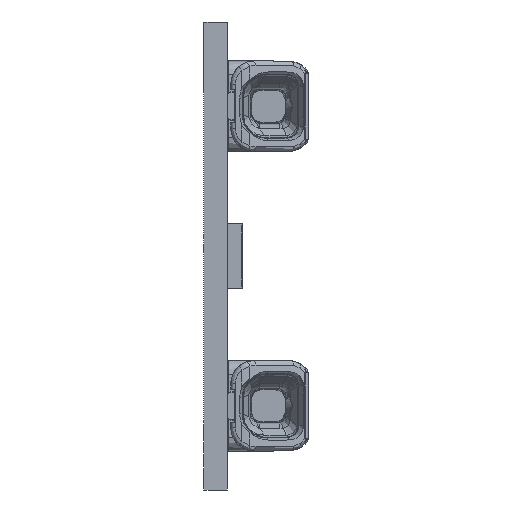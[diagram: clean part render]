
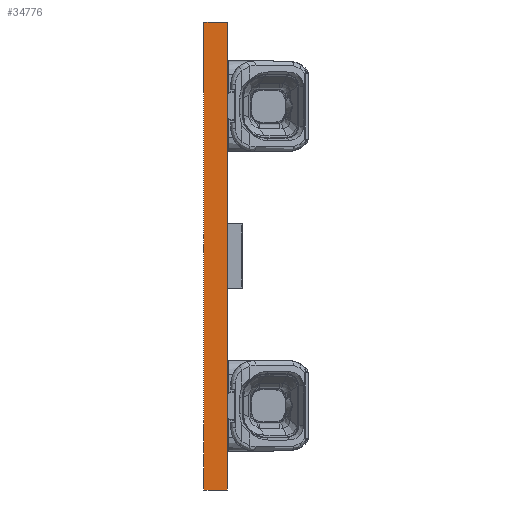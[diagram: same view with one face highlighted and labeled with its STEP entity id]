
A CAD part, left-side view. The second image highlights one B-rep face of the part: STEP entity #34776.
In plain terms, the highlighted planar face has unit normal (-1, 0, 0).
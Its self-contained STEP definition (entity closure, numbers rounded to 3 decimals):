
#1358=LINE('',#46029,#3734);
#2795=LINE('',#57285,#5171);
#2878=LINE('',#57450,#5254);
#2879=LINE('',#57452,#5255);
#3734=VECTOR('',#37681,1000.);
#5171=VECTOR('',#41378,1000.);
#5254=VECTOR('',#41625,1000.);
#5255=VECTOR('',#41628,1000.);
#6340=PLANE('',#36487);
#12830=ORIENTED_EDGE('',*,*,#14500,.F.);
#12831=ORIENTED_EDGE('',*,*,#16973,.F.);
#12832=ORIENTED_EDGE('',*,*,#16889,.T.);
#12833=ORIENTED_EDGE('',*,*,#16972,.T.);
#14500=EDGE_CURVE('',#17905,#17906,#1358,.T.);
#16889=EDGE_CURVE('',#19363,#19445,#2795,.T.);
#16972=EDGE_CURVE('',#19445,#17906,#2878,.T.);
#16973=EDGE_CURVE('',#19363,#17905,#2879,.T.);
#17905=VERTEX_POINT('',#46028);
#17906=VERTEX_POINT('',#46030);
#19363=VERTEX_POINT('',#57120);
#19445=VERTEX_POINT('',#57284);
#21790=EDGE_LOOP('',(#12830,#12831,#12832,#12833));
#23296=FACE_BOUND('',#21790,.T.);
#34776=ADVANCED_FACE('',(#23296),#6340,.T.);
#36487=AXIS2_PLACEMENT_3D('',#57451,#41626,#41627);
#37681=DIRECTION('',(0.,0.,-1.));
#41378=DIRECTION('',(0.,0.,-1.));
#41625=DIRECTION('',(0.,-1.,0.));
#41626=DIRECTION('',(-1.,0.,0.));
#41627=DIRECTION('',(0.,0.,1.));
#41628=DIRECTION('',(0.,-1.,0.));
#46028=CARTESIAN_POINT('',(-140.,0.,10.));
#46029=CARTESIAN_POINT('',(-140.,0.,10.));
#46030=CARTESIAN_POINT('',(-140.,0.,-10.));
#57120=CARTESIAN_POINT('',(-140.,1.,10.));
#57284=CARTESIAN_POINT('',(-140.,1.,-10.));
#57285=CARTESIAN_POINT('',(-140.,1.,10.));
#57450=CARTESIAN_POINT('',(-140.,1.,-10.));
#57451=CARTESIAN_POINT('',(-140.,1.,10.));
#57452=CARTESIAN_POINT('',(-140.,1.,10.));
